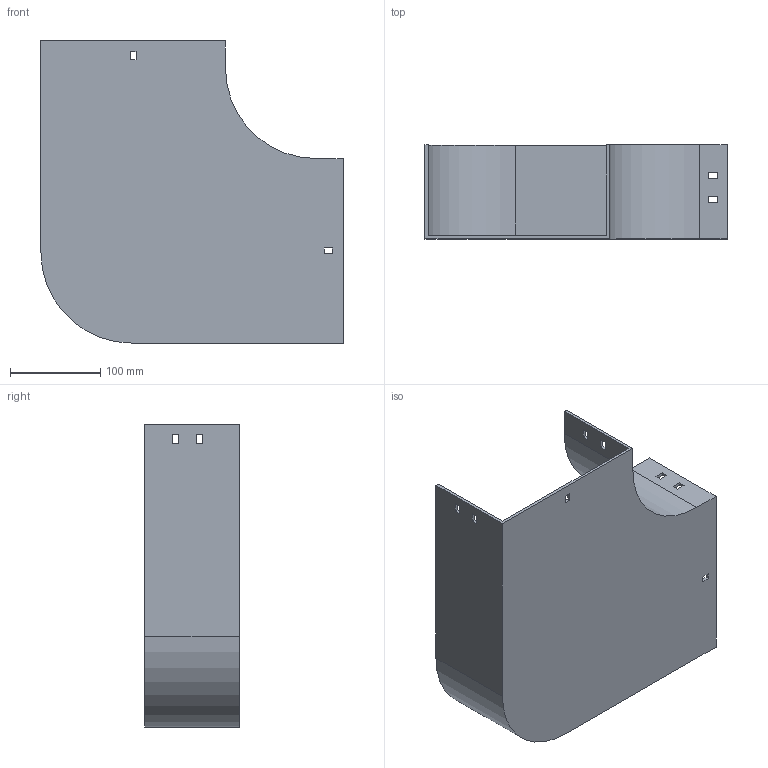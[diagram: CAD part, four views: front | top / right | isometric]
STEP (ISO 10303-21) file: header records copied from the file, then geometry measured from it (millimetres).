
FILE_DESCRIPTION (( 'STEP AP214' ), '1' );
FILE_NAME ('10F1D200.step', '2025-02-21T12:56:30', ( '' ), ( '' ), 'SwSTEP 2.0', 'SolidWorks 2023', '' );
FILE_SCHEMA (( 'AUTOMOTIVE_DESIGN' ));
Length unit declared in the file: millimetre
Products named in the file (1): 10F1D200
Bounding box: 334 x 104 x 334 mm (x, y, z)
Volume: 625156 mm3; surface area: 364183.6 mm2
Topology: 1 solids, 1 shells, 58 faces, 168 edges, 112 vertices
Faces by surface type: plane 54, cylinder 4
Entity records: 1943 total; most frequent: CARTESIAN_POINT 339, ORIENTED_EDGE 336, DIRECTION 294, EDGE_CURVE 168, LINE 160, VECTOR 160, VERTEX_POINT 112, EDGE_LOOP 78
